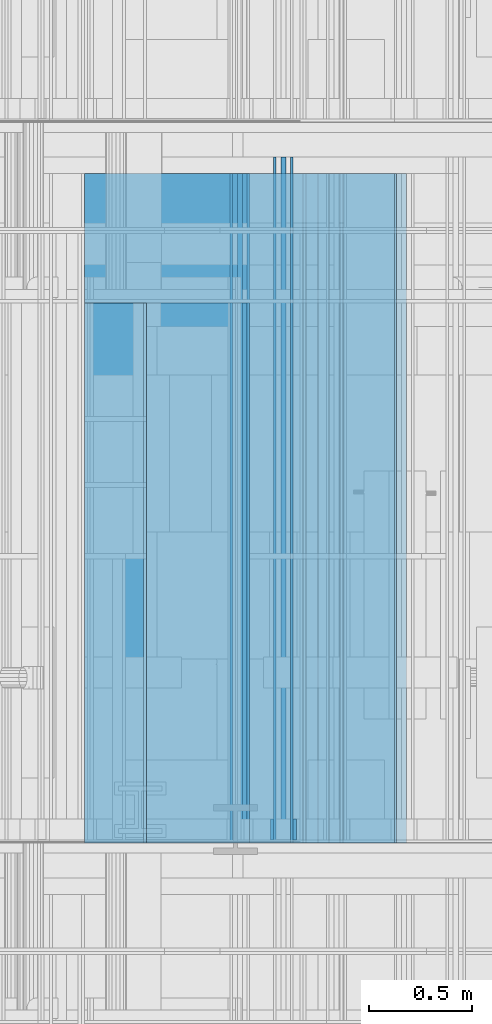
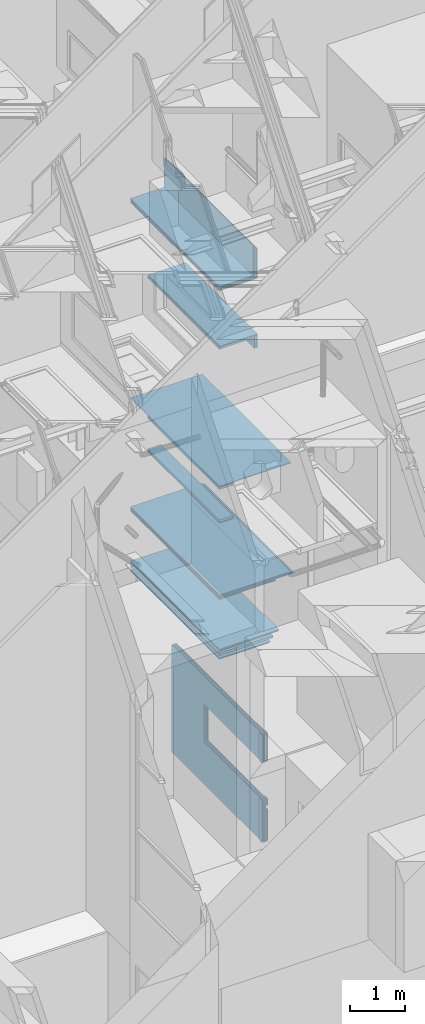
# One storey, part 107 of 583: 30 building element parts, 1 opening, 10 elements without a shape of their own.
"""IFC2X3 building model written with IfcOpenShell, lengths in metres."""

from ifc_helpers import new_model, entity, si_unit, converted_unit, derived_unit, money_unit, direction, frame, frame_2d, origin_with_axes, place, context, subcontext, project, spatial, polyline, rectangle, outline, extrude, material, type_object, element, aggregate, save


model = new_model("IFC2X3")

# Units and contexts
model_context = context("Model", 3, precision=1e-05, world=origin_with_axes(), true_north=direction((0.0, 1.0)))
body_context = subcontext(model_context, "Body", "Model", "MODEL_VIEW", scale=1.0)
ifc_project = project(units=[si_unit("LENGTHUNIT", "METRE"), si_unit("AREAUNIT", "SQUARE_METRE"), si_unit("VOLUMEUNIT", "CUBIC_METRE"), si_unit("ABSORBEDDOSEUNIT", "GRAY"), si_unit("AMOUNTOFSUBSTANCEUNIT", "MOLE"), si_unit("DOSEEQUIVALENTUNIT", "SIEVERT"), si_unit("ELECTRICCAPACITANCEUNIT", "FARAD"), si_unit("ELECTRICCHARGEUNIT", "COULOMB"), si_unit("ELECTRICCONDUCTANCEUNIT", "SIEMENS"), si_unit("ELECTRICCURRENTUNIT", "AMPERE"), si_unit("ELECTRICRESISTANCEUNIT", "OHM"), si_unit("ELECTRICVOLTAGEUNIT", "VOLT"), si_unit("ENERGYUNIT", "JOULE"), si_unit("FORCEUNIT", "NEWTON"), si_unit("FREQUENCYUNIT", "HERTZ"), si_unit("ILLUMINANCEUNIT", "LUX"), si_unit("INDUCTANCEUNIT", "HENRY"), si_unit("LUMINOUSFLUXUNIT", "LUMEN"), si_unit("LUMINOUSINTENSITYUNIT", "CANDELA"), si_unit("MAGNETICFLUXDENSITYUNIT", "TESLA"), si_unit("MAGNETICFLUXUNIT", "WEBER"), si_unit("MASSUNIT", "GRAM"), converted_unit("PLANEANGLEUNIT", "degree", entity("IfcReal", 0.0174532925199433), si_unit("PLANEANGLEUNIT", "RADIAN"), dimensions=[0, 0, 0, 0, 0, 0, 0]), si_unit("POWERUNIT", "WATT"), si_unit("PRESSUREUNIT", "PASCAL"), si_unit("RADIOACTIVITYUNIT", "BECQUEREL"), si_unit("SOLIDANGLEUNIT", "STERADIAN"), si_unit("THERMODYNAMICTEMPERATUREUNIT", "KELVIN"), si_unit("TIMEUNIT", "SECOND"), derived_unit("ACCELERATIONUNIT", [(si_unit("LENGTHUNIT", "METRE"), 1), (si_unit("TIMEUNIT", "SECOND"), -2)]), derived_unit("ANGULARVELOCITYUNIT", [(converted_unit("PLANEANGLEUNIT", "degree", entity("IfcReal", 0.0174532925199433), si_unit("PLANEANGLEUNIT", "RADIAN"), dimensions=[0, 0, 0, 0, 0, 0, 0]), 1), (si_unit("TIMEUNIT", "SECOND"), -1)]), derived_unit("CURVATUREUNIT", [(converted_unit("PLANEANGLEUNIT", "degree", entity("IfcReal", 0.0174532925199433), si_unit("PLANEANGLEUNIT", "RADIAN"), dimensions=[0, 0, 0, 0, 0, 0, 0]), 1), (si_unit("LENGTHUNIT", "METRE"), -1)]), derived_unit("DYNAMICVISCOSITYUNIT", [(si_unit("PRESSUREUNIT", "PASCAL"), 1), (si_unit("TIMEUNIT", "SECOND"), 1)]), derived_unit("HEATFLUXDENSITYUNIT", [(si_unit("POWERUNIT", "WATT"), 1), (si_unit("LENGTHUNIT", "METRE"), -2)]), derived_unit("HEATINGVALUEUNIT", [(si_unit("ENERGYUNIT", "JOULE"), 1), (si_unit("MASSUNIT", "GRAM"), -1)]), derived_unit("INTEGERCOUNTRATEUNIT", [(si_unit("TIMEUNIT", "SECOND"), -1)]), derived_unit("IONCONCENTRATIONUNIT", [(si_unit("MASSUNIT", "GRAM"), 1), (si_unit("VOLUMEUNIT", "CUBIC_METRE"), -1)]), derived_unit("ISOTHERMALMOISTURECAPACITYUNIT", [(si_unit("VOLUMEUNIT", "CUBIC_METRE"), 1), (si_unit("MASSUNIT", "GRAM"), -1)]), derived_unit("KINEMATICVISCOSITYUNIT", [(si_unit("AREAUNIT", "SQUARE_METRE"), 1), (si_unit("TIMEUNIT", "SECOND"), -1)]), derived_unit("LINEARFORCEUNIT", [(si_unit("FORCEUNIT", "NEWTON"), 1), (si_unit("LENGTHUNIT", "METRE"), -1)]), derived_unit("LINEARMOMENTUNIT", [(si_unit("FORCEUNIT", "NEWTON"), 1), (si_unit("LENGTHUNIT", "METRE"), -1)]), derived_unit("LINEARSTIFFNESSUNIT", [(si_unit("FORCEUNIT", "NEWTON"), 1), (si_unit("LENGTHUNIT", "METRE"), -1)]), derived_unit("LINEARVELOCITYUNIT", [(si_unit("LENGTHUNIT", "METRE"), 1), (si_unit("TIMEUNIT", "SECOND"), -1)]), derived_unit("LUMINOUSINTENSITYDISTRIBUTIONUNIT", [(si_unit("LUMINOUSINTENSITYUNIT", "CANDELA"), 1), (si_unit("LUMINOUSFLUXUNIT", "LUMEN"), -1)]), derived_unit("MASSDENSITYUNIT", [(si_unit("MASSUNIT", "GRAM"), 1), (si_unit("VOLUMEUNIT", "CUBIC_METRE"), -1)]), derived_unit("MASSFLOWRATEUNIT", [(si_unit("MASSUNIT", "GRAM"), 1), (si_unit("TIMEUNIT", "SECOND"), -1)]), derived_unit("MASSPERLENGTHUNIT", [(si_unit("MASSUNIT", "GRAM"), 1), (si_unit("LENGTHUNIT", "METRE"), -1)]), derived_unit("MODULUSOFELASTICITYUNIT", [(si_unit("FORCEUNIT", "NEWTON"), 1), (si_unit("AREAUNIT", "SQUARE_METRE"), -1)]), derived_unit("MODULUSOFLINEARSUBGRADEREACTIONUNIT", [(si_unit("FORCEUNIT", "NEWTON"), 1), (si_unit("LENGTHUNIT", "METRE"), -2)]), derived_unit("MODULUSOFROTATIONALSUBGRADEREACTIONUNIT", [(si_unit("FORCEUNIT", "NEWTON"), 1), (si_unit("LENGTHUNIT", "METRE"), 1)]), derived_unit("MODULUSOFSUBGRADEREACTIONUNIT", [(si_unit("FORCEUNIT", "NEWTON"), 1), (si_unit("VOLUMEUNIT", "CUBIC_METRE"), -1)]), derived_unit("MOISTUREDIFFUSIVITYUNIT", [(si_unit("VOLUMEUNIT", "CUBIC_METRE"), 1), (si_unit("TIMEUNIT", "SECOND"), -1)]), derived_unit("MOLECULARWEIGHTUNIT", [(si_unit("MASSUNIT", "GRAM"), 1), (si_unit("AMOUNTOFSUBSTANCEUNIT", "MOLE"), -1)]), derived_unit("PLANARFORCEUNIT", [(si_unit("FORCEUNIT", "NEWTON"), 1), (si_unit("LENGTHUNIT", "METRE"), -2)]), derived_unit("ROTATIONALFREQUENCYUNIT", [(si_unit("TIMEUNIT", "SECOND"), -1)]), derived_unit("ROTATIONALMASSUNIT", [(si_unit("MASSUNIT", "GRAM"), 1), (si_unit("LENGTHUNIT", "METRE"), 2)]), derived_unit("ROTATIONALSTIFFNESSUNIT", [(si_unit("FORCEUNIT", "NEWTON"), 1), (si_unit("LENGTHUNIT", "METRE"), 1), (converted_unit("PLANEANGLEUNIT", "degree", entity("IfcReal", 0.0174532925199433), si_unit("PLANEANGLEUNIT", "RADIAN"), dimensions=[0, 0, 0, 0, 0, 0, 0]), -1)]), derived_unit("SECTIONAREAINTEGRALUNIT", [(si_unit("LENGTHUNIT", "METRE"), 5)]), derived_unit("SECTIONMODULUSUNIT", [(si_unit("LENGTHUNIT", "METRE"), 3)]), derived_unit("SHEARMODULUSUNIT", [(si_unit("FORCEUNIT", "NEWTON"), 1), (si_unit("AREAUNIT", "SQUARE_METRE"), -1)]), derived_unit("SOUNDPOWERUNIT", [(si_unit("ENERGYUNIT", "JOULE"), 1), (si_unit("TIMEUNIT", "SECOND"), -1)]), derived_unit("SPECIFICHEATCAPACITYUNIT", [(si_unit("FORCEUNIT", "NEWTON"), 1), (si_unit("MASSUNIT", "GRAM"), -1), (si_unit("THERMODYNAMICTEMPERATUREUNIT", "KELVIN"), -1)]), derived_unit("TEMPERATUREGRADIENTUNIT", [(si_unit("THERMODYNAMICTEMPERATUREUNIT", "KELVIN"), 1), (si_unit("LENGTHUNIT", "METRE"), -1)]), derived_unit("THERMALADMITTANCEUNIT", [(si_unit("POWERUNIT", "WATT"), 1), (si_unit("AREAUNIT", "SQUARE_METRE"), -1), (si_unit("THERMODYNAMICTEMPERATUREUNIT", "KELVIN"), -1)]), derived_unit("THERMALCONDUCTANCEUNIT", [(si_unit("POWERUNIT", "WATT"), 1), (si_unit("LENGTHUNIT", "METRE"), -1), (si_unit("THERMODYNAMICTEMPERATUREUNIT", "KELVIN"), -1)]), derived_unit("THERMALEXPANSIONCOEFFICIENTUNIT", [(si_unit("THERMODYNAMICTEMPERATUREUNIT", "KELVIN"), -1)]), derived_unit("THERMALRESISTANCEUNIT", [(si_unit("AREAUNIT", "SQUARE_METRE"), 1), (si_unit("POWERUNIT", "WATT"), -1)]), derived_unit("THERMALTRANSMITTANCEUNIT", [(si_unit("POWERUNIT", "WATT"), 1), (si_unit("AREAUNIT", "SQUARE_METRE"), -1), (si_unit("THERMODYNAMICTEMPERATUREUNIT", "KELVIN"), -1)]), derived_unit("TORQUEUNIT", [(si_unit("FORCEUNIT", "NEWTON"), 1), (si_unit("LENGTHUNIT", "METRE"), 1)]), derived_unit("VAPORPERMEABILITYUNIT", [(si_unit("MASSUNIT", "GRAM"), 1), (si_unit("TIMEUNIT", "SECOND"), -1)]), derived_unit("VOLUMETRICFLOWRATEUNIT", [(si_unit("VOLUMEUNIT", "CUBIC_METRE"), 1), (si_unit("TIMEUNIT", "SECOND"), -1)]), derived_unit("WARPINGCONSTANTUNIT", [(si_unit("LENGTHUNIT", "METRE"), 6)]), derived_unit("WARPINGMOMENTUNIT", [(si_unit("FORCEUNIT", "NEWTON"), 1), (si_unit("LENGTHUNIT", "METRE"), 2)]), money_unit("GBP")], contexts=[model_context])

# Site, building, storey
site_placement = place(None, origin_with_axes())
site = spatial("IfcSite", under=ifc_project, at=site_placement, Name="Site", CompositionType="ELEMENT")
building_placement = place(site_placement, origin_with_axes())
building = spatial("IfcBuilding", under=site, at=building_placement, Name="Building01", CompositionType="ELEMENT")
storey_placement = place(building_placement, frame((0.0, 0.0, 20.78), z_axis=(0.0, 0.0, 1.0), x_axis=(1.0, 0.0, 0.0)))
storey = spatial("IfcBuildingStorey", under=building, at=storey_placement, Name="RL", CompositionType="ELEMENT", Elevation=20.78)

# Wall, building element part
wall_type_1 = type_object("IfcWallType", Name="SHE_A-Walls_Type05a_Partition_95mm_tall", PredefinedType="NOTDEFINED")
wall_1_placement = place(storey_placement, frame((10.38, 8.64, -7.851415), z_axis=(0.0, 1.0, 0.0), x_axis=(-1.0, 0.0, 0.0)))
wall_1 = element("IfcWall", 1, at=wall_1_placement, inside=storey, type_object=wall_type_1, Name="5A", ObjectType="SHE_A-Walls_Type05a_Partition_95mm_tall")
ifc_material_1 = material(Name="A_BSUK_WallInternal_Finishes_Plasterboard")
building_element_part_1_placement = place(wall_1_placement, origin_with_axes())
building_element_part_1 = element("IfcBuildingElementPart", 2, at=building_element_part_1_placement, material=ifc_material_1, Name="5", context=body_context, shape_type="SweptSolid", body=[
    extrude(outline(polyline([(1.56, -0.023), (0.048, -0.023), (0.06, -0.035), (1.56, -0.035), (1.56, -0.023)])), origin_with_axes(), (0.0, 0.0, 1.0), 3.24),
])
aggregate(wall_1, [building_element_part_1])

# Wall, building element parts
wall_type_2 = type_object("IfcWallType", Name="SHE_A-Walls_Type05c_PreWallShell_65mm", PredefinedType="NOTDEFINED")
wall_2_placement = place(storey_placement, frame((8.82, 8.64, -8.626129), z_axis=(0.0, 1.0, 0.0), x_axis=(1.0, 0.0, 0.0)))
wall_2 = element("IfcWall", 3, at=wall_2_placement, inside=storey, type_object=wall_type_2, Name="5C", ObjectType="SHE_A-Walls_Type05c_PreWallShell_65mm")
ifc_material_2 = material(Name="A_BSUK_OpeningsClearance")
placement_1 = place(wall_2_placement, origin_with_axes())
building_element_part_2 = element("IfcBuildingElementPart", 4, at=placement_1, material=ifc_material_2, Name="1", context=body_context, shape_type="SweptSolid", body=[
    extrude(rectangle(XDim=0.285, YDim=0.05, at=frame_2d((0.1425, 0.025), x_axis=(-1.0, 0.0))), origin_with_axes(), (0.0, 0.0, 1.0), 2.615),
])
ifc_material_3 = material(Name="A_BSUK_Walls_Timber")
building_element_part_3 = element("IfcBuildingElementPart", 5, at=placement_1, material=ifc_material_3, Name="2", context=body_context, shape_type="SweptSolid", body=[
    extrude(rectangle(XDim=0.3, YDim=0.015, at=frame_2d((0.15, 0.0575), x_axis=(-1.0, 0.0))), origin_with_axes(), (0.0, 0.0, 1.0), 2.615),
])
aggregate(wall_2, [building_element_part_2, building_element_part_3])

wall_3_placement = place(storey_placement, frame((8.82, 8.64, -7.951415), z_axis=(0.0, 1.0, 0.0), x_axis=(1.0, 0.0, 0.0)))
wall_3 = element("IfcWall", 6, at=wall_3_placement, inside=storey, type_object=wall_type_2, Name="5C", ObjectType="SHE_A-Walls_Type05c_PreWallShell_65mm")
placement_2 = place(wall_3_placement, origin_with_axes())
building_element_part_4 = element("IfcBuildingElementPart", 7, at=placement_2, material=ifc_material_2, Name="1", context=body_context, shape_type="SweptSolid", body=[
    extrude(rectangle(XDim=0.285, YDim=0.05, at=frame_2d((0.1425, -0.025), x_axis=(-1.0, 0.0))), origin_with_axes(), (0.0, 0.0, 1.0), 2.615),
])
building_element_part_5 = element("IfcBuildingElementPart", 8, at=placement_2, material=ifc_material_3, Name="2", context=body_context, shape_type="SweptSolid", body=[
    extrude(rectangle(XDim=0.3, YDim=0.015, at=frame_2d((0.15, -0.0575), x_axis=(-1.0, 0.0))), origin_with_axes(), (0.0, 0.0, 1.0), 2.615),
])
aggregate(wall_3, [building_element_part_4, building_element_part_5])

wall_4_placement = place(storey_placement, frame((9.555, 8.64, -4.836868), z_axis=(0.0, 1.0, 0.0), x_axis=(-1.0, 0.0, 0.0)))
wall_4 = element("IfcWall", 9, at=wall_4_placement, inside=storey, type_object=wall_type_2, Name="5C", ObjectType="SHE_A-Walls_Type05c_PreWallShell_65mm")
placement_3 = place(wall_4_placement, origin_with_axes())
building_element_part_6 = element("IfcBuildingElementPart", 10, at=placement_3, material=ifc_material_2, Name="1", context=body_context, shape_type="SweptSolid", body=[
    extrude(rectangle(XDim=0.735, YDim=0.05, at=frame_2d((0.3675, 0.025), x_axis=(-1.0, 0.0))), origin_with_axes(), (0.0, 0.0, 1.0), 2.615),
])
building_element_part_7 = element("IfcBuildingElementPart", 11, at=placement_3, material=ifc_material_3, Name="2", context=body_context, shape_type="SweptSolid", body=[
    extrude(rectangle(XDim=0.785, YDim=0.015, at=frame_2d((0.3275, 0.0575), x_axis=(-1.0, 0.0))), origin_with_axes(), (0.0, 0.0, 1.0), 2.615),
])
aggregate(wall_4, [building_element_part_6, building_element_part_7])

wall_5_placement = place(storey_placement, frame((9.555, 8.64, -5.071868), z_axis=(0.0, 1.0, 0.0), x_axis=(0.0, 0.0, 1.0)))
wall_5 = element("IfcWall", 12, at=wall_5_placement, inside=storey, type_object=wall_type_2, Name="5C", ObjectType="SHE_A-Walls_Type05c_PreWallShell_65mm")
placement_4 = place(wall_5_placement, origin_with_axes())
building_element_part_8 = element("IfcBuildingElementPart", 13, at=placement_4, material=ifc_material_2, Name="1", context=body_context, shape_type="SweptSolid", body=[
    extrude(rectangle(XDim=0.285, YDim=0.05, at=frame_2d((0.1425, 0.025), x_axis=(-1.0, 0.0))), origin_with_axes(), (0.0, 0.0, 1.0), 2.615),
])
building_element_part_9 = element("IfcBuildingElementPart", 14, at=placement_4, material=ifc_material_3, Name="2", context=body_context, shape_type="SweptSolid", body=[
    extrude(rectangle(XDim=0.285, YDim=0.015, at=frame_2d((0.1425, 0.0575), x_axis=(-1.0, 0.0))), origin_with_axes(), (0.0, 0.0, 1.0), 2.615),
])
aggregate(wall_5, [building_element_part_8, building_element_part_9])

wall_6_placement = place(storey_placement, frame((8.82, 8.64, -3.506868), z_axis=(0.0, 1.0, 0.0), x_axis=(1.0, 0.0, 0.0)))
wall_6 = element("IfcWall", 15, at=wall_6_placement, inside=storey, type_object=wall_type_1, Name="5A", ObjectType="SHE_A-Walls_Type05a_Partition_95mm_tall")
ifc_material_4 = material(Name="A_BSUK_Insulation")
placement_5 = place(wall_6_placement, origin_with_axes())
building_element_part_10 = element("IfcBuildingElementPart", 16, at=placement_5, material=ifc_material_4, Name="1", context=body_context, shape_type="SweptSolid", body=[
    extrude(outline(polyline([(0.765, 0.0), (0.0, 0.0), (0.0, -0.025), (0.74, -0.025), (0.765, 0.0)])), origin_with_axes(), (0.0, 0.0, 1.0), 3.24),
])
building_element_part_11 = element("IfcBuildingElementPart", 17, at=placement_5, material=ifc_material_1, Name="4", context=body_context, shape_type="SweptSolid", body=[
    extrude(outline(polyline([(0.8, 0.035), (0.0, 0.035), (0.0, 0.023), (0.788, 0.023), (0.8, 0.035)])), origin_with_axes(), (0.0, 0.0, 1.0), 3.24),
])
building_element_part_12 = element("IfcBuildingElementPart", 18, at=placement_5, material=ifc_material_1, Name="5", context=body_context, shape_type="SweptSolid", body=[
    extrude(outline(polyline([(0.717, -0.048), (0.0, -0.048), (0.0, -0.06), (0.705, -0.06), (0.717, -0.048)])), origin_with_axes(), (0.0, 0.0, 1.0), 3.24),
])
aggregate(wall_6, [building_element_part_10, building_element_part_11, building_element_part_12])

wall_7_placement = place(storey_placement, frame((9.585, 8.64, -3.506868), z_axis=(0.0, 1.0, 0.0), x_axis=(0.0, 0.0, 1.0)))
wall_7 = element("IfcWall", 19, at=wall_7_placement, inside=storey, type_object=wall_type_1, Name="5A", ObjectType="SHE_A-Walls_Type05a_Partition_95mm_tall")
placement_6 = place(wall_7_placement, origin_with_axes())
building_element_part_13 = element("IfcBuildingElementPart", 20, at=placement_6, material=ifc_material_4, Name="1", context=body_context, shape_type="SweptSolid", body=[
    extrude(outline(polyline([(0.666868, 0.0), (0.0, 0.0), (0.025, -0.025), (0.691868, -0.025), (0.666868, 0.0)])), origin_with_axes(), (0.0, 0.0, 1.0), 3.24),
])
building_element_part_14 = element("IfcBuildingElementPart", 21, at=placement_6, material=ifc_material_1, Name="4", context=body_context, shape_type="SweptSolid", body=[
    extrude(outline(polyline([(0.631868, 0.035), (-0.035, 0.035), (-0.023, 0.023), (0.643868, 0.023), (0.631868, 0.035)])), origin_with_axes(), (0.0, 0.0, 1.0), 3.24),
])
building_element_part_15 = element("IfcBuildingElementPart", 22, at=placement_6, material=ifc_material_1, Name="5", context=body_context, shape_type="SweptSolid", body=[
    extrude(outline(polyline([(0.714868, -0.048), (0.048, -0.048), (0.06, -0.06), (0.726868, -0.06), (0.714868, -0.048)])), origin_with_axes(), (0.0, 0.0, 1.0), 3.24),
])
aggregate(wall_7, [building_element_part_13, building_element_part_14, building_element_part_15])

wall_type_3 = type_object("IfcWallType", Name="SHE_A-Walls_Type01c_Partywall_225mm_twin_tall", PredefinedType="NOTDEFINED")
wall_8_placement = place(storey_placement, frame((8.82, 8.64, -11.633), z_axis=(0.0, 1.0, 0.0), x_axis=(1.0, 0.0, 0.0)))
wall_8 = element("IfcWall", 23, at=wall_8_placement, inside=storey, type_object=wall_type_3, Name="1C", ObjectType="SHE_A-Walls_Type01c_Partywall_225mm_twin_tall")
placement_7 = place(wall_8_placement, origin_with_axes())
building_element_part_16 = element("IfcBuildingElementPart", 24, at=placement_7, material=ifc_material_4, Name="1", context=body_context, shape_type="SweptSolid", body=[
    extrude(rectangle(XDim=1.129704, YDim=0.05, at=frame_2d((0.564852, -0.025), x_axis=(-1.0, 0.0))), origin_with_axes(), (0.0, 0.0, 1.0), 3.24),
])
building_element_part_17 = element("IfcBuildingElementPart", 25, at=placement_7, material=ifc_material_1, Name="3", context=body_context, shape_type="SweptSolid", body=[
    extrude(outline(polyline([(1.042704, 0.087), (0.0, 0.087), (0.0, 0.072), (1.057704, 0.072), (1.042704, 0.087)])), origin_with_axes(), (0.0, 0.0, 1.0), 3.24),
])
building_element_part_18 = element("IfcBuildingElementPart", 26, at=placement_7, material=ifc_material_1, Name="4", context=body_context, shape_type="SweptSolid", body=[
    extrude(outline(polyline([(1.057704, 0.072), (0.0, 0.072), (0.0, 0.057), (1.072704, 0.057), (1.057704, 0.072)])), origin_with_axes(), (0.0, 0.0, 1.0), 3.24),
])
building_element_part_19 = element("IfcBuildingElementPart", 27, at=placement_7, material=ifc_material_1, Name="5", context=body_context, shape_type="SweptSolid", body=[
    extrude(rectangle(XDim=1.237704, YDim=0.015, at=frame_2d((0.618852, -0.1155), x_axis=(-1.0, 0.0))), origin_with_axes(), (0.0, 0.0, 1.0), 3.24),
])
building_element_part_20 = element("IfcBuildingElementPart", 28, at=placement_7, material=ifc_material_1, Name="6", context=body_context, shape_type="SweptSolid", body=[
    extrude(rectangle(XDim=1.252704, YDim=0.015, at=frame_2d((0.626352, -0.1305), x_axis=(-1.0, 0.0))), origin_with_axes(), (0.0, 0.0, 1.0), 3.24),
])
aggregate(wall_8, [building_element_part_16, building_element_part_17, building_element_part_18, building_element_part_19, building_element_part_20])

# Wall, opening, building element parts
wall_9_placement = place(storey_placement, frame((9.79567, 8.64, -13.715331), z_axis=(0.0, 1.0, 0.0), x_axis=(0.0, 0.0, -1.0)))
wall_9 = element("IfcWall", 29, at=wall_9_placement, inside=storey, type_object=wall_type_1, Name="5A", ObjectType="SHE_A-Walls_Type05a_Partition_95mm_tall")
opening_placement = place(wall_9_placement, frame((0.624, 0.06, 0.0), z_axis=(0.0, 0.0, 1.0), x_axis=(1.0, 0.0, 0.0)))
element("IfcOpeningElement", 30, at=opening_placement, cuts=wall_9, Name="Opening", ObjectType="Opening", context=body_context, shape_type="SweptSolid", body=[
    extrude(rectangle(XDim=2.142, YDim=0.834, at=frame_2d((-0.417, 1.071), x_axis=(0.0, -1.0))), frame((0.0, -4.269658, 0.0), z_axis=(0.0, 1.0, 0.0), x_axis=(-1.0, 0.0, 0.0)), (0.0, 0.0, 1.0), 8.539316),
])
placement_8 = place(wall_9_placement, origin_with_axes())
building_element_part_21 = element("IfcBuildingElementPart", 31, at=placement_8, material=ifc_material_4, Name="1", context=body_context, shape_type="SweptSolid", body=[
    extrude(rectangle(XDim=2.395, YDim=0.025, at=frame_2d((1.1975, 0.0125), x_axis=(-1.0, 0.0))), origin_with_axes(), (0.0, 0.0, 1.0), 3.32),
])
building_element_part_22 = element("IfcBuildingElementPart", 32, at=placement_8, material=ifc_material_3, Name="2", context=body_context, shape_type="SweptSolid", body=[
    extrude(rectangle(XDim=2.38, YDim=0.015, at=frame_2d((1.205, 0.0675), x_axis=(-1.0, 0.0))), frame((0.0, 0.0, 0.015), z_axis=(0.0, 0.0, 1.0), x_axis=(1.0, 0.0, 0.0)), (0.0, 0.0, 1.0), 0.1),
])
building_element_part_23 = element("IfcBuildingElementPart", 33, at=placement_8, material=ifc_material_3, Name="3", context=body_context, shape_type="SweptSolid", body=[
    extrude(rectangle(XDim=1.6, YDim=0.015, at=frame_2d((0.8, -0.0425), x_axis=(-1.0, 0.0))), frame((0.0, 0.0, 0.015), z_axis=(0.0, 0.0, 1.0), x_axis=(1.0, 0.0, 0.0)), (0.0, 0.0, 1.0), 0.1),
])
building_element_part_24 = element("IfcBuildingElementPart", 34, at=placement_8, material=ifc_material_3, Name="4", context=body_context, shape_type="SweptSolid", body=[
    extrude(rectangle(XDim=0.7, YDim=0.015, at=frame_2d((2.045, -0.0425), x_axis=(-1.0, 0.0))), frame((0.0, 0.0, 0.015), z_axis=(0.0, 0.0, 1.0), x_axis=(1.0, 0.0, 0.0)), (0.0, 0.0, 1.0), 0.1),
])
building_element_part_25 = element("IfcBuildingElementPart", 35, at=placement_8, material=ifc_material_1, Name="5", context=body_context, shape_type="SweptSolid", body=[
    extrude(rectangle(XDim=2.395, YDim=0.012, at=frame_2d((1.1975, 0.054), x_axis=(-1.0, 0.0))), origin_with_axes(), (0.0, 0.0, 1.0), 3.32),
])
building_element_part_26 = element("IfcBuildingElementPart", 36, at=placement_8, material=ifc_material_1, Name="6", context=body_context, shape_type="SweptSolid", body=[
    extrude(rectangle(XDim=1.612, YDim=0.012, at=frame_2d((0.806, -0.029), x_axis=(-1.0, 0.0))), origin_with_axes(), (0.0, 0.0, 1.0), 3.32),
])
building_element_part_27 = element("IfcBuildingElementPart", 37, at=placement_8, material=ifc_material_1, Name="7", context=body_context, shape_type="SweptSolid", body=[
    extrude(rectangle(XDim=0.712, YDim=0.012, at=frame_2d((2.039, -0.029), x_axis=(-1.0, 0.0))), origin_with_axes(), (0.0, 0.0, 1.0), 3.32),
])
aggregate(wall_9, [building_element_part_21, building_element_part_22, building_element_part_23, building_element_part_24, building_element_part_25, building_element_part_26, building_element_part_27])

# Wall, building element parts
wall_10_placement = place(storey_placement, frame((8.82, 8.64, -10.326129), z_axis=(0.0, 1.0, 0.0), x_axis=(1.0, 0.0, 0.0)))
wall_10 = element("IfcWall", 38, at=wall_10_placement, inside=storey, type_object=wall_type_1, Name="5A", ObjectType="SHE_A-Walls_Type05a_Partition_95mm_tall")
placement_9 = place(wall_10_placement, origin_with_axes())
building_element_part_28 = element("IfcBuildingElementPart", 39, at=placement_9, material=ifc_material_4, Name="1", context=body_context, shape_type="SweptSolid", body=[
    extrude(rectangle(XDim=1.56, YDim=0.025, at=frame_2d((0.78, 0.0125), x_axis=(-1.0, 0.0))), origin_with_axes(), (0.0, 0.0, 1.0), 3.24),
])
building_element_part_29 = element("IfcBuildingElementPart", 40, at=placement_9, material=ifc_material_1, Name="5", context=body_context, shape_type="SweptSolid", body=[
    extrude(rectangle(XDim=1.184704, YDim=0.012, at=frame_2d((0.592352, 0.054), x_axis=(-1.0, 0.0))), origin_with_axes(), (0.0, 0.0, 1.0), 3.24),
])
building_element_part_30 = element("IfcBuildingElementPart", 41, at=placement_9, material=ifc_material_1, Name="6", context=body_context, shape_type="SweptSolid", body=[
    extrude(outline(polyline([(1.512, -0.023), (0.0, -0.023), (0.0, -0.035), (1.5, -0.035), (1.512, -0.023)])), origin_with_axes(), (0.0, 0.0, 1.0), 3.24),
])
aggregate(wall_10, [building_element_part_28, building_element_part_29, building_element_part_30])

save(model, "model.ifc")
